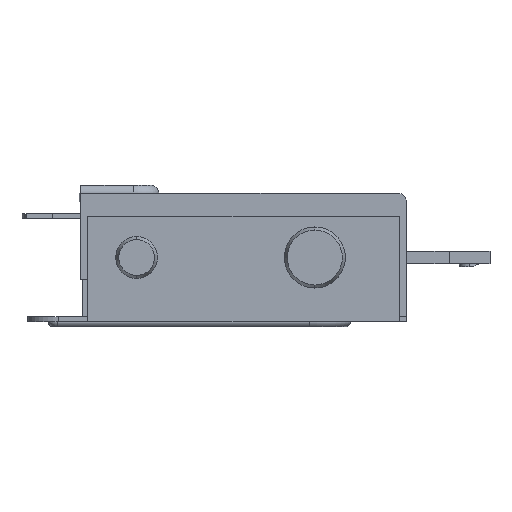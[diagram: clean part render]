
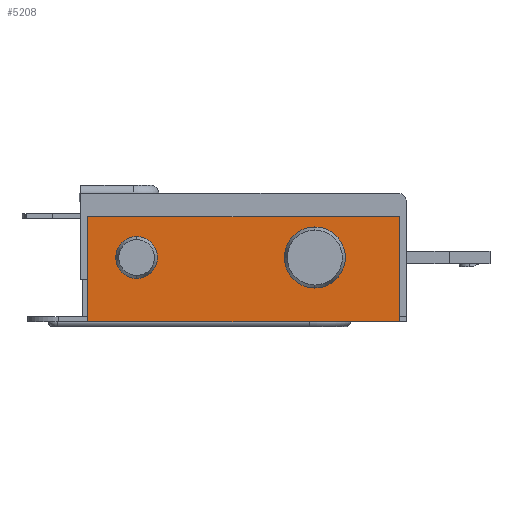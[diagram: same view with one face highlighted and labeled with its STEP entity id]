
A CAD part, left-side view. The second image highlights one B-rep face of the part: STEP entity #5208.
In plain terms, the highlighted planar face has unit normal (-1, 0, 0).
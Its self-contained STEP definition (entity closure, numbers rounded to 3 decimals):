
#29 = LINE ( 'NONE', #8574, #6597 ) ;
#347 = DIRECTION ( 'NONE',  ( 0., -1., 0. ) ) ;
#514 = CIRCLE ( 'NONE', #6162, 2.05 ) ;
#643 = ORIENTED_EDGE ( 'NONE', *, *, #8809, .T. ) ;
#849 = ORIENTED_EDGE ( 'NONE', *, *, #6677, .F. ) ;
#879 = CARTESIAN_POINT ( 'NONE',  ( -65.5, 0., -26.5 ) ) ;
#903 = LINE ( 'NONE', #1475, #3733 ) ;
#919 = CARTESIAN_POINT ( 'NONE',  ( -65.5, 4., -31.3 ) ) ;
#1063 = VECTOR ( 'NONE', #6273, 1000. ) ;
#1283 = EDGE_CURVE ( 'NONE', #5945, #6477, #8686, .T. ) ;
#1352 = CIRCLE ( 'NONE', #7593, 2.05 ) ;
#1410 = FACE_BOUND ( 'NONE', #5700, .T. ) ;
#1475 = CARTESIAN_POINT ( 'NONE',  ( -65.5, -6.3, -31.3 ) ) ;
#1725 = DIRECTION ( 'NONE',  ( 0., -1., 0. ) ) ;
#1838 = CARTESIAN_POINT ( 'NONE',  ( -65.5, 0., -9. ) ) ;
#2023 = VERTEX_POINT ( 'NONE', #6837 ) ;
#2145 = FACE_BOUND ( 'NONE', #2815, .T. ) ;
#2279 = PLANE ( 'NONE',  #4279 ) ;
#2379 = DIRECTION ( 'NONE',  ( -1., 0., 0. ) ) ;
#2596 = LINE ( 'NONE', #3426, #1063 ) ;
#2607 = DIRECTION ( 'NONE',  ( -1., 0., 0. ) ) ;
#2815 = EDGE_LOOP ( 'NONE', ( #849, #6138 ) ) ;
#2832 = CARTESIAN_POINT ( 'NONE',  ( -65.5, -6.3, -0.7 ) ) ;
#2855 = DIRECTION ( 'NONE',  ( 0., 0., 1. ) ) ;
#2943 = VERTEX_POINT ( 'NONE', #2832 ) ;
#3365 = CIRCLE ( 'NONE', #4256, 3. ) ;
#3426 = CARTESIAN_POINT ( 'NONE',  ( -65.5, -6.3, -0.7 ) ) ;
#3440 = DIRECTION ( 'NONE',  ( 0., 0., -1. ) ) ;
#3572 = DIRECTION ( 'NONE',  ( 0., -1., 0. ) ) ;
#3635 = VERTEX_POINT ( 'NONE', #3985 ) ;
#3673 = ORIENTED_EDGE ( 'NONE', *, *, #7653, .T. ) ;
#3733 = VECTOR ( 'NONE', #2855, 1000. ) ;
#3976 = DIRECTION ( 'NONE',  ( -1., 0., 0. ) ) ;
#3985 = CARTESIAN_POINT ( 'NONE',  ( -65.5, 2.05, -26.5 ) ) ;
#4047 = CARTESIAN_POINT ( 'NONE',  ( -65.5, 0., -9. ) ) ;
#4256 = AXIS2_PLACEMENT_3D ( 'NONE', #4047, #2607, #4792 ) ;
#4279 = AXIS2_PLACEMENT_3D ( 'NONE', #7830, #7075, #3572 ) ;
#4459 = CARTESIAN_POINT ( 'NONE',  ( -65.5, -6.3, -31.3 ) ) ;
#4619 = VERTEX_POINT ( 'NONE', #4459 ) ;
#4665 = AXIS2_PLACEMENT_3D ( 'NONE', #1838, #3976, #347 ) ;
#4792 = DIRECTION ( 'NONE',  ( 0., -1., 0. ) ) ;
#4937 = ORIENTED_EDGE ( 'NONE', *, *, #8103, .F. ) ;
#5208 = ADVANCED_FACE ( 'NONE', ( #1410, #2145, #5825 ), #2279, .T. ) ;
#5685 = DIRECTION ( 'NONE',  ( 0., -1., 0. ) ) ;
#5700 = EDGE_LOOP ( 'NONE', ( #8149, #4937 ) ) ;
#5825 = FACE_OUTER_BOUND ( 'NONE', #8649, .T. ) ;
#5945 = VERTEX_POINT ( 'NONE', #6131 ) ;
#6131 = CARTESIAN_POINT ( 'NONE',  ( -65.5, -3., -9. ) ) ;
#6138 = ORIENTED_EDGE ( 'NONE', *, *, #1283, .F. ) ;
#6162 = AXIS2_PLACEMENT_3D ( 'NONE', #6994, #9241, #5685 ) ;
#6188 = VERTEX_POINT ( 'NONE', #7936 ) ;
#6273 = DIRECTION ( 'NONE',  ( 0., 1., 0. ) ) ;
#6336 = VECTOR ( 'NONE', #1725, 1000. ) ;
#6477 = VERTEX_POINT ( 'NONE', #8531 ) ;
#6517 = EDGE_CURVE ( 'NONE', #7476, #4619, #6699, .T. ) ;
#6597 = VECTOR ( 'NONE', #3440, 1000. ) ;
#6677 = EDGE_CURVE ( 'NONE', #6477, #5945, #3365, .T. ) ;
#6699 = LINE ( 'NONE', #919, #6336 ) ;
#6837 = CARTESIAN_POINT ( 'NONE',  ( -65.5, -2.05, -26.5 ) ) ;
#6994 = CARTESIAN_POINT ( 'NONE',  ( -65.5, 0., -26.5 ) ) ;
#7039 = CARTESIAN_POINT ( 'NONE',  ( -65.5, 4., -31.3 ) ) ;
#7075 = DIRECTION ( 'NONE',  ( -1., 0., 0. ) ) ;
#7420 = EDGE_CURVE ( 'NONE', #3635, #2023, #514, .T. ) ;
#7476 = VERTEX_POINT ( 'NONE', #7039 ) ;
#7593 = AXIS2_PLACEMENT_3D ( 'NONE', #879, #2379, #7972 ) ;
#7653 = EDGE_CURVE ( 'NONE', #6188, #7476, #29, .T. ) ;
#7830 = CARTESIAN_POINT ( 'NONE',  ( -65.5, 4., -31.3 ) ) ;
#7936 = CARTESIAN_POINT ( 'NONE',  ( -65.5, 4., -0.7 ) ) ;
#7972 = DIRECTION ( 'NONE',  ( 0., -1., 0. ) ) ;
#8103 = EDGE_CURVE ( 'NONE', #2023, #3635, #1352, .T. ) ;
#8149 = ORIENTED_EDGE ( 'NONE', *, *, #7420, .F. ) ;
#8242 = ORIENTED_EDGE ( 'NONE', *, *, #8991, .T. ) ;
#8531 = CARTESIAN_POINT ( 'NONE',  ( -65.5, 3., -9. ) ) ;
#8574 = CARTESIAN_POINT ( 'NONE',  ( -65.5, 4., -0.7 ) ) ;
#8649 = EDGE_LOOP ( 'NONE', ( #3673, #8908, #8242, #643 ) ) ;
#8686 = CIRCLE ( 'NONE', #4665, 3. ) ;
#8809 = EDGE_CURVE ( 'NONE', #2943, #6188, #2596, .T. ) ;
#8908 = ORIENTED_EDGE ( 'NONE', *, *, #6517, .T. ) ;
#8991 = EDGE_CURVE ( 'NONE', #4619, #2943, #903, .T. ) ;
#9241 = DIRECTION ( 'NONE',  ( -1., 0., 0. ) ) ;
